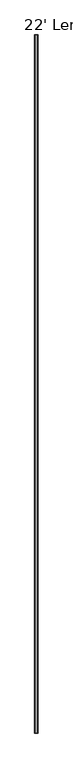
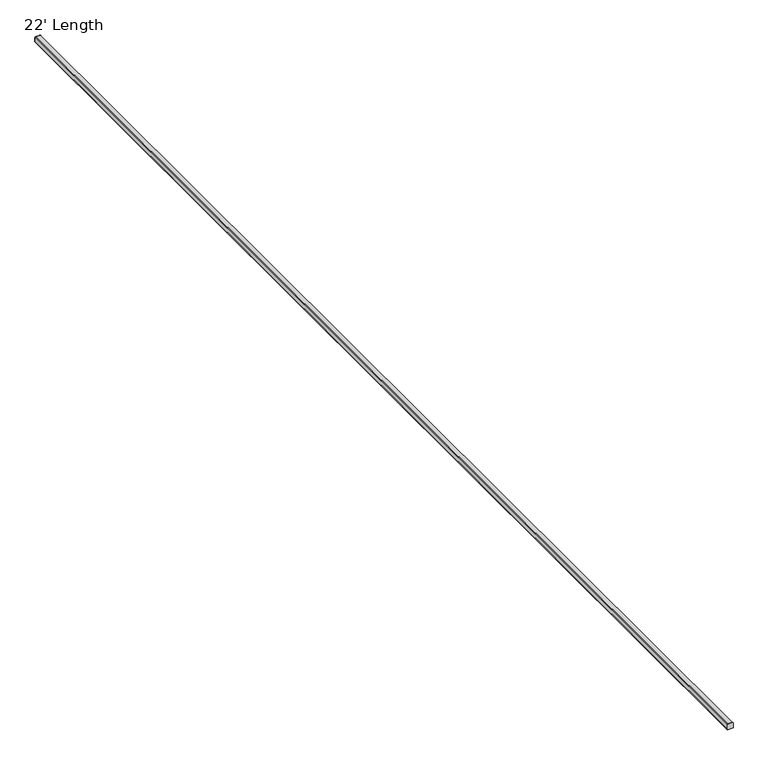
"""IFC4 building model written with IfcOpenShell, lengths in millimetres: light fixture geometry, 63_PHILIPS_DALI Square Track_RCS750 5C6 L4000 : 22' Length."""

from ifc_helpers import new_model, si_unit, point, frame, frame_2d, origin, place, context, project, spatial, polyline, circle_curve, trimmed, segment, composite_curve, outline, extrude, source, transform, mapped, element, save


def light_fixture_22_length_926c026d(model_context):
    return source(origin(), model_context, "Body", "SweptSolid", [
        extrude(outline(composite_curve([segment(polyline([(0.0, 13.5), (0.0, -13.5)]), True, "CONTINUOUS"), segment(trimmed(circle_curve(frame_2d((-7.411509, -4.5112137)), 11.650268), [point((0.0, -13.5))], [point((-5.4784973, -16.0))], False, "CARTESIAN"), True, "CONTINUOUS"), segment(polyline([(-5.4784973, -16.0), (-28.3363105, -16.0)]), True, "CONTINUOUS"), segment(trimmed(circle_curve(frame_2d((-28.3363105, -8.0)), 8.0), [point((-28.3363105, -16.0))], [point((-33.0, -14.5))], False, "CARTESIAN"), True, "CONTINUOUS"), segment(polyline([(-33.0, -14.5), (-33.0, -13.5), (-29.8363105, -13.5), (-29.8363105, -6.0), (-4.8363105, -6.0), (-4.8363105, 6.0), (-29.8363105, 6.0), (-29.8363105, 13.5)]), True, "CONTINUOUS"), segment(trimmed(circle_curve(frame_2d((-27.3363105, 13.5)), 2.5), [point((-29.8363105, 13.5))], [point((-27.3363105, 16.0))], False, "CARTESIAN"), True, "CONTINUOUS"), segment(polyline([(-27.3363105, 16.0), (-5.4784973, 16.0)]), True, "CONTINUOUS"), segment(trimmed(circle_curve(frame_2d((-7.1833442, 5.0112137)), 11.1202485), [point((-5.4784973, 16.0))], [point((0.0, 13.5))], False, "CARTESIAN"), True, "CONTINUOUS")], self_intersect=False)), frame((0.0, -3352.8, 0.0), z_axis=(0.0, 1.0, 0.0), x_axis=(0.0, 0.0, 1.0)), (0.0, 0.0, 1.0), 6705.6),
        extrude(outline(composite_curve([segment(polyline([(-5.4784973, -16.0), (-28.3363105, -16.0)]), True, "CONTINUOUS"), segment(trimmed(circle_curve(frame_2d((-28.3363105, -8.0)), 8.0), [point((-28.3363105, -16.0))], [point((-33.0, -14.5))], False, "CARTESIAN"), True, "CONTINUOUS"), segment(polyline([(-33.0, -14.5), (-33.0, 16.0), (-5.4784973, 16.0)]), True, "CONTINUOUS"), segment(trimmed(circle_curve(frame_2d((-7.1833442, 5.0112137)), 11.1202485), [point((-5.4784973, 16.0))], [point((0.0, 13.5))], False, "CARTESIAN"), True, "CONTINUOUS"), segment(polyline([(0.0, 13.5), (0.0, -13.5)]), True, "CONTINUOUS"), segment(trimmed(circle_curve(frame_2d((-7.411509, -4.5112137)), 11.650268), [point((0.0, -13.5))], [point((-5.4784973, -16.0))], False, "CARTESIAN"), True, "CONTINUOUS")], self_intersect=False)), frame((0.0, 3352.8, 0.0), z_axis=(0.0, 1.0, 0.0), x_axis=(0.0, 0.0, 1.0)), (0.0, 0.0, 1.0), 2.0),
        extrude(outline(composite_curve([segment(polyline([(-5.4784973, -16.0), (-28.3363105, -16.0)]), True, "CONTINUOUS"), segment(trimmed(circle_curve(frame_2d((-28.3363105, -8.0)), 8.0), [point((-28.3363105, -16.0))], [point((-33.0, -14.5))], False, "CARTESIAN"), True, "CONTINUOUS"), segment(polyline([(-33.0, -14.5), (-33.0, 16.0), (-5.4784973, 16.0)]), True, "CONTINUOUS"), segment(trimmed(circle_curve(frame_2d((-7.1833442, 5.0112137)), 11.1202485), [point((-5.4784973, 16.0))], [point((0.0, 13.5))], False, "CARTESIAN"), True, "CONTINUOUS"), segment(polyline([(0.0, 13.5), (0.0, -13.5)]), True, "CONTINUOUS"), segment(trimmed(circle_curve(frame_2d((-7.411509, -4.5112137)), 11.650268), [point((0.0, -13.5))], [point((-5.4784973, -16.0))], False, "CARTESIAN"), True, "CONTINUOUS")], self_intersect=False)), frame((0.0, -3354.8, 0.0), z_axis=(0.0, 1.0, 0.0), x_axis=(0.0, 0.0, 1.0)), (0.0, 0.0, 1.0), 2.0),
    ])


if __name__ == "__main__":
    model = new_model("IFC4")
    model_context = context("Model", 3, world=origin())
    ifc_project = project(units=[si_unit("LENGTHUNIT", "METRE", prefix="MILLI")], contexts=[model_context])
    site = spatial("IfcSite", under=ifc_project)
    building = spatial("IfcBuilding", under=site)
    placement = place(None, origin())
    light_fixture_22_length_shape = light_fixture_22_length_926c026d(model_context)
    element("IfcLightFixture", 1, ObjectType="63_PHILIPS_DALI Square Track_RCS750 5C6 L4000 : 22' Length", at=placement, inside=building, context=model_context, shape_type="MappedRepresentation", body=[
        mapped(light_fixture_22_length_shape, transform((0.0, 0.0, 0.0), x_axis=(1.0, 0.0, 0.0), y_axis=(0.0, 1.0, 0.0), z_axis=(0.0, 0.0, 1.0))),
    ])
    save(model, "model.ifc")
